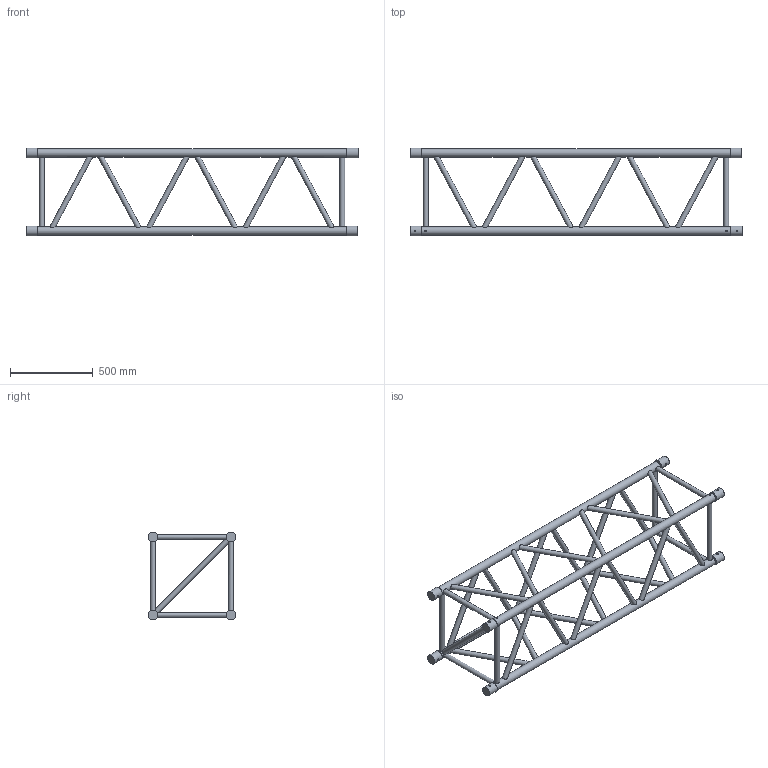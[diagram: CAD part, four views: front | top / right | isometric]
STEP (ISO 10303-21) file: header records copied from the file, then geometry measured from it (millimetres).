
FILE_DESCRIPTION(/* description */ (''),/* implementation_level */ '2;1');
FILE_NAME(/* name */ 'M:\Symbolen_NIEUW\STP\52-er truss\111110112.stp',/* time_stamp */ '2015-04-22T15:47:25+02:00',/* author */ ('Stephan'),/* organization */ (''),/* preprocessor_version */ 'ST-DEVELOPER v15.6',/* originating_system */ 'Autodesk Inventor 2015',/* authorisation */ '');
FILE_SCHEMA (('AUTOMOTIVE_DESIGN { 1 0 10303 214 3 1 1 }'));
Length unit declared in the file: millimetre
Products named in the file (1): 160023969
Bounding box: 2000 x 528.8 x 528.8 mm (x, y, z)
Volume: 27415969.7 mm3; surface area: 2828617 mm2
Topology: 2 solids, 6 shells, 308 faces, 766 edges, 474 vertices
Faces by surface type: plane 162, cylinder 106, cone 40
Full cylindrical faces by diameter (mm): 10 x8, 30 x34, 50 x4, 58.8 x8
Entity records: 11465 total; most frequent: CARTESIAN_POINT 4599, DIRECTION 1356, ORIENTED_EDGE 1248, AXIS2_PLACEMENT_3D 613, EDGE_CURVE 598, EDGE_LOOP 456, VERTEX_POINT 400, STYLED_ITEM 289
